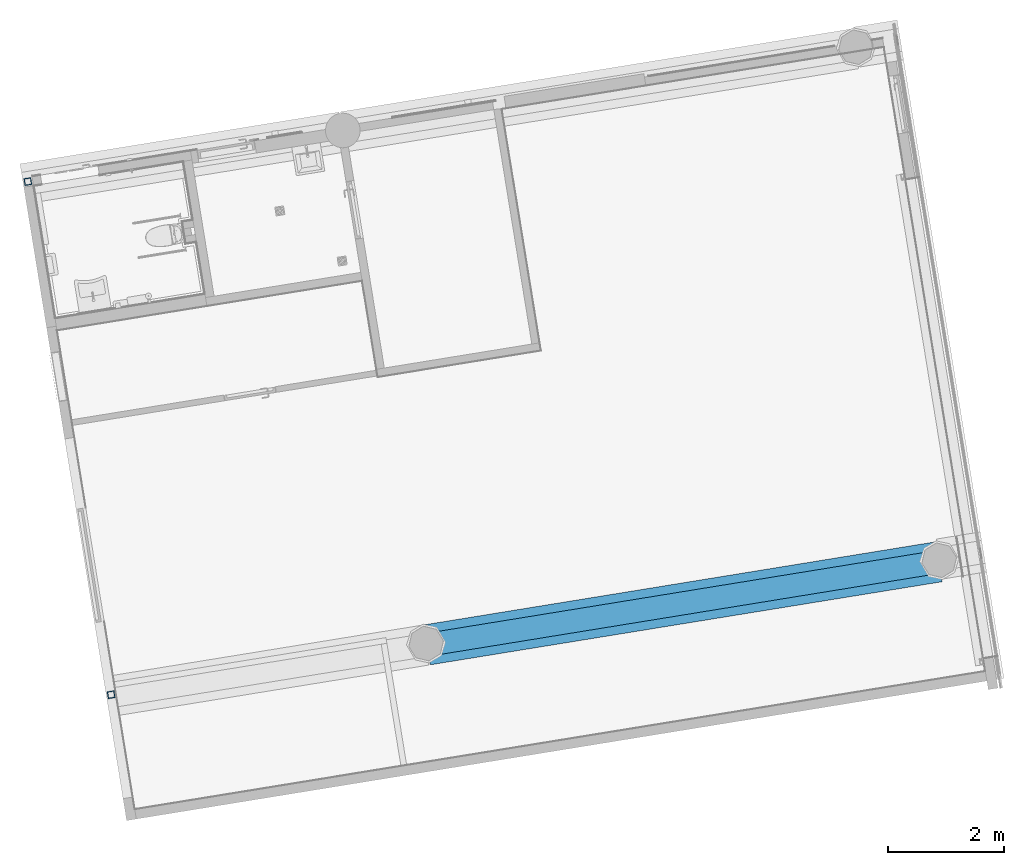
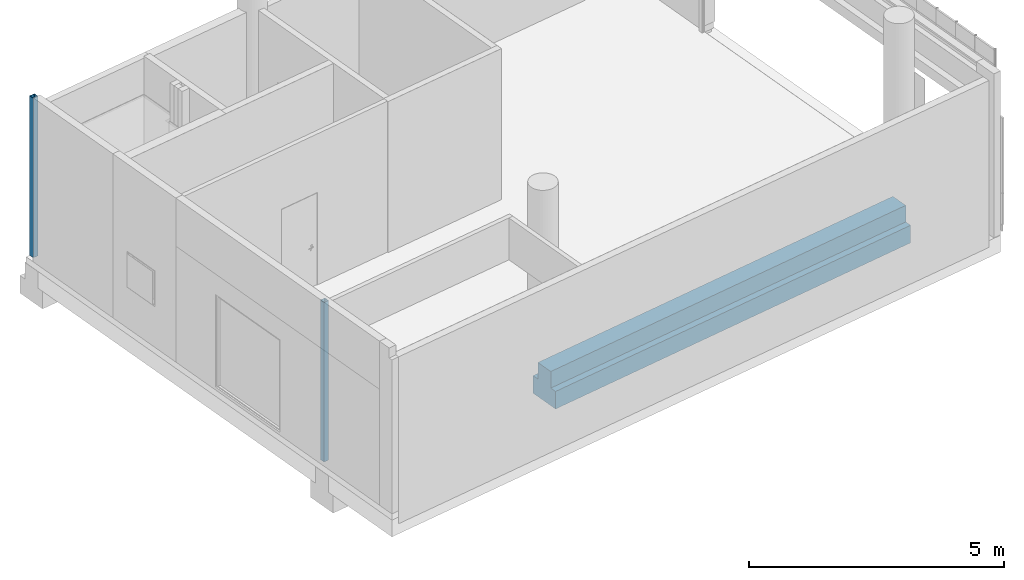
# One storey, part 1 of 38: 2 columns, 1 beam.
"""IFC2X3 building model written with IfcOpenShell, lengths in millimetres."""

from ifc_helpers import new_model, entity, si_unit, converted_unit, derived_unit, direction, frame, frame_2d, origin, origin_with_axes, place, context, subcontext, project, spatial, polyline, circle_curve, parameter, trimmed, segment, composite_curve, outline, extrude, source, transform, mapped, material, type_object, element, save


model = new_model("IFC2X3")

# Units and contexts
model_context = context("Model", 3, precision=0.01, world=origin(), true_north=direction((6.12323399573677e-17, 1.0)))
plan_context = context("Plan", 3, precision=1e-05, world=origin_with_axes())
body_context = subcontext(model_context, "Body", "Model", "MODEL_VIEW")
ifc_project = project(units=[converted_unit("PLANEANGLEUNIT", "DEGREE", entity("IfcPositiveLengthMeasure", 0.0174532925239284), si_unit("PLANEANGLEUNIT", "RADIAN"), dimensions=[0, 0, 0, 0, 0, 0, 0]), si_unit("AREAUNIT", "SQUARE_METRE"), si_unit("LENGTHUNIT", "METRE", prefix="MILLI"), si_unit("MASSUNIT", "GRAM", prefix="KILO"), si_unit("POWERUNIT", "WATT"), si_unit("PRESSUREUNIT", "PASCAL", prefix="KILO"), si_unit("FORCEUNIT", "NEWTON", prefix="KILO"), si_unit("ELECTRICVOLTAGEUNIT", "VOLT"), si_unit("ELECTRICCURRENTUNIT", "AMPERE"), si_unit("THERMODYNAMICTEMPERATUREUNIT", "DEGREE_CELSIUS"), si_unit("TIMEUNIT", "SECOND"), si_unit("VOLUMEUNIT", "CUBIC_METRE"), derived_unit("LINEARVELOCITYUNIT", [(si_unit("LENGTHUNIT", "METRE"), 1), (si_unit("TIMEUNIT", "SECOND"), -1)]), derived_unit("VOLUMETRICFLOWRATEUNIT", [(si_unit("VOLUMEUNIT", "CUBIC_METRE"), 1), (si_unit("TIMEUNIT", "SECOND"), -1)]), derived_unit("THERMALTRANSMITTANCEUNIT", [(si_unit("POWERUNIT", "WATT"), 1), (si_unit("THERMODYNAMICTEMPERATUREUNIT", "KELVIN"), -1), (si_unit("AREAUNIT", "SQUARE_METRE"), -1)]), derived_unit("SOUNDPRESSUREUNIT", [(si_unit("PRESSUREUNIT", "PASCAL"), 1)])], contexts=[model_context, plan_context])

# Site, building, storey
site_placement = place(None, frame((-0.00071070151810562, 0.00438415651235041, 0.0), z_axis=(0.0, 0.0, 1.0), x_axis=(-0.160236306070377, 0.987078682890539, 0.0)))
site = spatial("IfcSite", under=ifc_project, at=site_placement, Name="Default", CompositionType="ELEMENT")
building_placement = place(site_placement, origin_with_axes())
building = spatial("IfcBuilding", under=site, at=building_placement, Name="TOO", CompositionType="ELEMENT")
storey_placement = place(building_placement, frame((0.0, 0.0, 50999.9999999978), z_axis=(0.0, 0.0, 1.0), x_axis=(1.0, 0.0, 0.0)))
storey = spatial("IfcBuildingStorey", under=building, at=storey_placement, Name="Nivå D-H01", CompositionType="ELEMENT", Elevation=50999.9999999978)

# Columns
ifc_material = material(Name="A200 - Metall - Stål")
column_type = type_object("IfcColumnType", Name="A222 - HUP:A222 - HUP - 120 x 120 X 8mm", PredefinedType="COLUMN", material=ifc_material)
shared_shape = source(origin(), body_context, "Body", "SweptSolid", [
    extrude(outline(composite_curve([segment(trimmed(circle_curve(frame_2d((52.0, -52.0), x_axis=(1.0, 0.0)), 8.0), [parameter(270.0)], [parameter(360.0)], True, "PARAMETER"), True, "CONTINUOUS"), segment(polyline([(60.0, -52.0), (60.0, 52.0)]), True, "CONTINUOUS"), segment(trimmed(circle_curve(frame_2d((52.0, 52.0), x_axis=(1.0, 0.0)), 8.0), [parameter(360.0)], [parameter(89.9999999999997)], True, "PARAMETER"), True, "CONTINUOUS"), segment(polyline([(52.0, 60.0), (-52.0, 60.0)]), True, "CONTINUOUS"), segment(trimmed(circle_curve(frame_2d((-52.0, 52.0), x_axis=(1.0, 0.0)), 8.0), [parameter(90.0)], [parameter(180.0)], True, "PARAMETER"), True, "CONTINUOUS"), segment(polyline([(-60.0, 52.0), (-60.0, -52.0)]), True, "CONTINUOUS"), segment(trimmed(circle_curve(frame_2d((-52.0, -52.0), x_axis=(1.0, 0.0)), 8.0), [parameter(180.0)], [parameter(270.0)], True, "PARAMETER"), True, "CONTINUOUS"), segment(polyline([(-52.0, -60.0), (52.0, -60.0)]), True, "CONTINUOUS")], self_intersect=False), holes=[composite_curve([segment(polyline([(48.0, -52.0), (-48.0, -52.0)]), True, "CONTINUOUS"), segment(trimmed(circle_curve(frame_2d((-48.0, -48.0), x_axis=(1.0, 0.0)), 4.0), [parameter(180.0)], [parameter(270.0)], True, "PARAMETER"), False, "CONTINUOUS"), segment(polyline([(-52.0, -48.0), (-52.0, 48.0)]), True, "CONTINUOUS"), segment(trimmed(circle_curve(frame_2d((-48.0, 48.0), x_axis=(1.0, 0.0)), 4.0), [parameter(90.0000000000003)], [parameter(180.0)], True, "PARAMETER"), False, "CONTINUOUS"), segment(polyline([(-48.0, 52.0), (48.0, 52.0)]), True, "CONTINUOUS"), segment(trimmed(circle_curve(frame_2d((48.0, 48.0), x_axis=(1.0, 0.0)), 4.0), [parameter(2.54444374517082e-13)], [parameter(90.0000000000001)], True, "PARAMETER"), False, "CONTINUOUS"), segment(polyline([(52.0, 48.0), (52.0, -48.0)]), True, "CONTINUOUS"), segment(trimmed(circle_curve(frame_2d((48.0, -48.0), x_axis=(1.0, 0.0)), 4.0), [parameter(270.0)], [parameter(0.0)], True, "PARAMETER"), False, "CONTINUOUS")], self_intersect=False)]), frame((0.0, 0.0, 50999.9999999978)), (0.0, 0.0, 1.0), 3810.0000000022),
])
for number, where, z_axis, x_axis, name in (
    (1, (770877.619644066, -588977.480498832, -50999.9999999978), (0.0, 0.0, 1.0), (1.0, 0.0, 0.0), "A222 - HUP:A222 - HUP - 120 x 120 X 8mm"),
    (2, (779877.619644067, -588977.480498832, -50999.9999999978), (0.0, 0.0, 1.0), (1.0, 0.0, 0.0), "A222 - HUP:A222 - HUP - 120 x 120 X 8mm"),
):
    element("IfcColumn", number, at=place(storey_placement, frame(where, z_axis=z_axis, x_axis=x_axis)), inside=storey, type_object=column_type, material=ifc_material, Name=name, ObjectType="A222 - HUP:A222 - HUP - 120 x 120 X 8mm", context=body_context, shape_type="MappedRepresentation", body=[
        mapped(shared_shape, transform((0.0, 0.0, 0.0), scale=1.0)),
    ])

# Beam
beam_type = type_object("IfcBeamType", Name="A223 - DLB Prefab. Betongbjelke:A223 - DLB Prefab. Betongbjelke - 815 x 700 x 400 mm", PredefinedType="BEAM")
beam_placement = place(storey_placement, frame((770852.619644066, -594502.480498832, -225.0), z_axis=(0.0, 0.0, 1.0), x_axis=(0.0, -1.0, 0.0)))
element("IfcBeam", 3, at=beam_placement, inside=storey, type_object=beam_type, Name="A223 - DLB Prefab. Betongbjelke:A223 - DLB Prefab. Betongbjelke - 815 x 700 x 400 mm", ObjectType="A223 - DLB Prefab. Betongbjelke:A223 - DLB Prefab. Betongbjelke - 815 x 700 x 400 mm", context=body_context, shape_type="SweptSolid", body=[
    extrude(outline(polyline([(-6.25000000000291, -350.0), (413.749999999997, -350.0), (413.749999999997, 350.0), (-6.25000000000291, 350.0), (-6.25000000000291, 200.0), (-401.25, 200.0), (-401.25, -200.0), (-6.25000000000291, -200.0), (-6.25000000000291, -350.0)])), frame((12.7000006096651, 0.0, -401.250000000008), z_axis=(1.0, 0.0, 0.0), x_axis=(0.0, 0.0, -1.0)), (0.0, 0.0, 1.0), 8974.5999987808),
])

save(model, "model.ifc")
